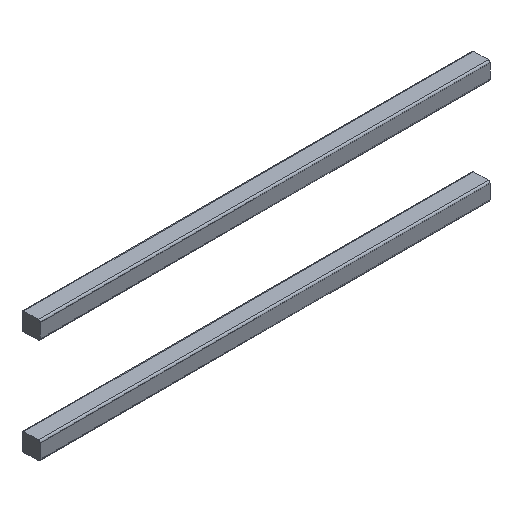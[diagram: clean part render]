
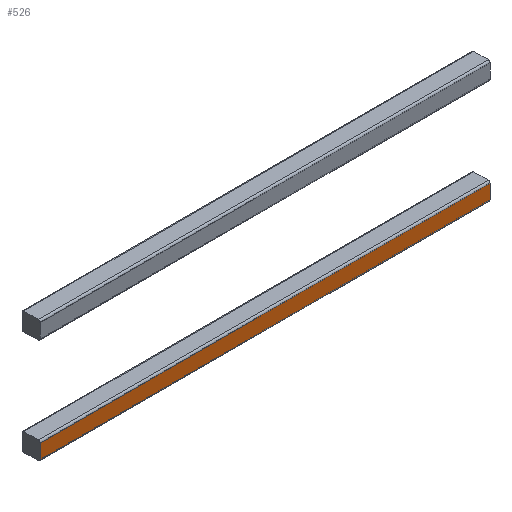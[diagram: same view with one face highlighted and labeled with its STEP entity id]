
A CAD part, isometric view. The second image highlights one B-rep face of the part: STEP entity #526.
In plain terms, the highlighted planar face has unit normal (0, -1, 0).
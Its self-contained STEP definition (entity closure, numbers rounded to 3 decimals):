
#35 = CARTESIAN_POINT ( 'NONE',  ( -4899.807, -3872., -2962.72 ) ) ;
#38 = LINE ( 'NONE', #235, #438 ) ;
#40 = CARTESIAN_POINT ( 'NONE',  ( -4274.807, -3872., -2962.72 ) ) ;
#51 = VERTEX_POINT ( 'NONE', #499 ) ;
#77 = VECTOR ( 'NONE', #521, 1000. ) ;
#108 = CARTESIAN_POINT ( 'NONE',  ( -4274.807, -3872., -2964.228 ) ) ;
#117 = VECTOR ( 'NONE', #238, 1000. ) ;
#136 = LINE ( 'NONE', #40, #117 ) ;
#179 = ORIENTED_EDGE ( 'NONE', *, *, #269, .F. ) ;
#184 = CARTESIAN_POINT ( 'NONE',  ( -4274.807, -3872., -2964.228 ) ) ;
#193 = CARTESIAN_POINT ( 'NONE',  ( -4274.807, -3872., -2982.72 ) ) ;
#221 = LINE ( 'NONE', #417, #77 ) ;
#226 = EDGE_LOOP ( 'NONE', ( #179, #620, #320, #608 ) ) ;
#234 = DIRECTION ( 'NONE',  ( 0., -1., 0. ) ) ;
#235 = CARTESIAN_POINT ( 'NONE',  ( -4899.807, -3872., -2964.228 ) ) ;
#238 = DIRECTION ( 'NONE',  ( -1., 0., 0. ) ) ;
#250 = EDGE_CURVE ( 'NONE', #327, #469, #221, .T. ) ;
#251 = VECTOR ( 'NONE', #589, 1000. ) ;
#258 = CARTESIAN_POINT ( 'NONE',  ( -4899.807, -3872., -2982.72 ) ) ;
#269 = EDGE_CURVE ( 'NONE', #469, #587, #38, .T. ) ;
#282 = EDGE_CURVE ( 'NONE', #51, #587, #136, .T. ) ;
#320 = ORIENTED_EDGE ( 'NONE', *, *, #477, .T. ) ;
#322 = FACE_OUTER_BOUND ( 'NONE', #226, .T. ) ;
#327 = VERTEX_POINT ( 'NONE', #193 ) ;
#369 = PLANE ( 'NONE',  #601 ) ;
#417 = CARTESIAN_POINT ( 'NONE',  ( -4274.807, -3872., -2982.72 ) ) ;
#438 = VECTOR ( 'NONE', #619, 1000. ) ;
#469 = VERTEX_POINT ( 'NONE', #258 ) ;
#477 = EDGE_CURVE ( 'NONE', #327, #51, #553, .T. ) ;
#499 = CARTESIAN_POINT ( 'NONE',  ( -4274.807, -3872., -2962.72 ) ) ;
#521 = DIRECTION ( 'NONE',  ( -1., 0., 0. ) ) ;
#523 = DIRECTION ( 'NONE',  ( 0., 0., -1. ) ) ;
#526 = ADVANCED_FACE ( 'NONE', ( #322 ), #369, .T. ) ;
#553 = LINE ( 'NONE', #108, #251 ) ;
#587 = VERTEX_POINT ( 'NONE', #35 ) ;
#589 = DIRECTION ( 'NONE',  ( 0., 0., 1. ) ) ;
#601 = AXIS2_PLACEMENT_3D ( 'NONE', #184, #234, #523 ) ;
#608 = ORIENTED_EDGE ( 'NONE', *, *, #282, .T. ) ;
#619 = DIRECTION ( 'NONE',  ( 0., 0., 1. ) ) ;
#620 = ORIENTED_EDGE ( 'NONE', *, *, #250, .F. ) ;
